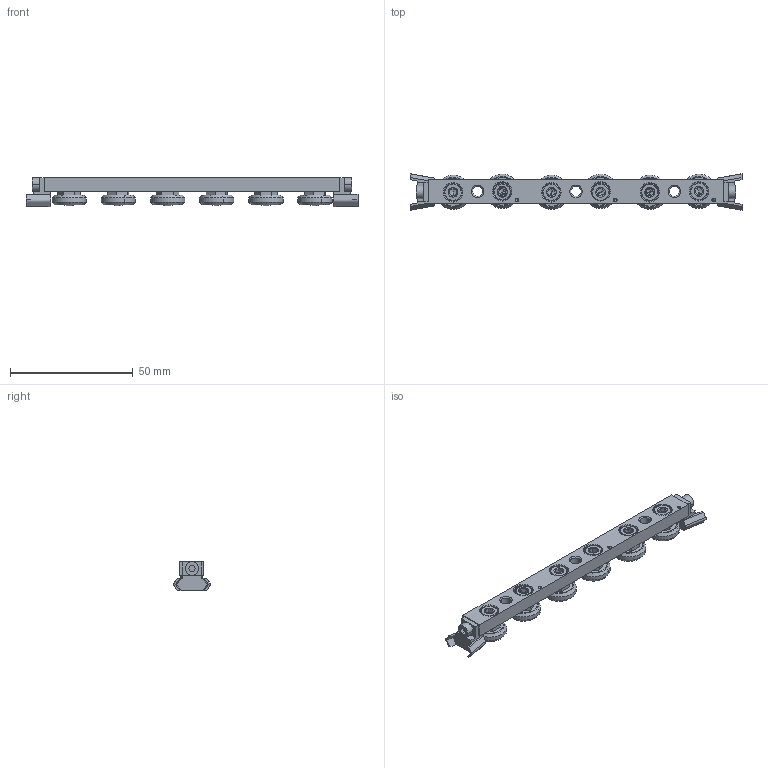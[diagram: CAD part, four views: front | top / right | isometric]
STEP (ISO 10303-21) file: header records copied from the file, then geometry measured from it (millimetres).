
FILE_DESCRIPTION (( 'STEP AP203' ), '1' );
FILE_NAME ('L1918.CSW18-120-2ZTA.step', '2019-06-29T22:06:36', ( '' ), ( '' ), 'SwSTEP 2.0', 'SolidWorks 2017', '' );
FILE_SCHEMA (( 'CONFIG_CONTROL_DESIGN' ));
Length unit declared in the file: millimetre
Products named in the file (6): Part2; Part8; Part3; L1918.CSW18-120-2ZTA; Part6; Part1_L1918.CSW18-120-2ZTA
Assembly tree (19 placements, depth 2):
  L1918.CSW18-120-2ZTA
    Part1_L1918.CSW18-120-2ZTA
    Part8  x10
    Part2  x3
    Part3  x3
    Part6  x2
Bounding box: 135 x 14.8 x 11.95 mm (x, y, z)
Volume: 10947.1 mm3; surface area: 10676.5 mm2
Topology: 19 solids, 19 shells, 602 faces, 1388 edges, 849 vertices
Faces by surface type: plane 298, cone 166, cylinder 106, torus 32
Entity records: 7309 total; most frequent: DIRECTION 1164, CARTESIAN_POINT 1158, ORIENTED_EDGE 988, EDGE_CURVE 494, AXIS2_PLACEMENT_3D 447, VERTEX_POINT 316, LINE 270, VECTOR 270
